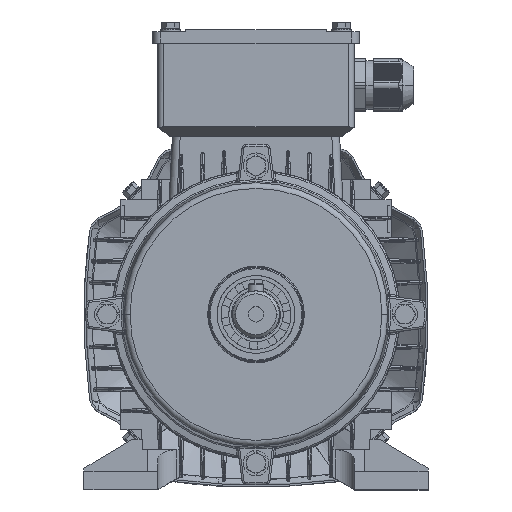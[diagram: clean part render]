
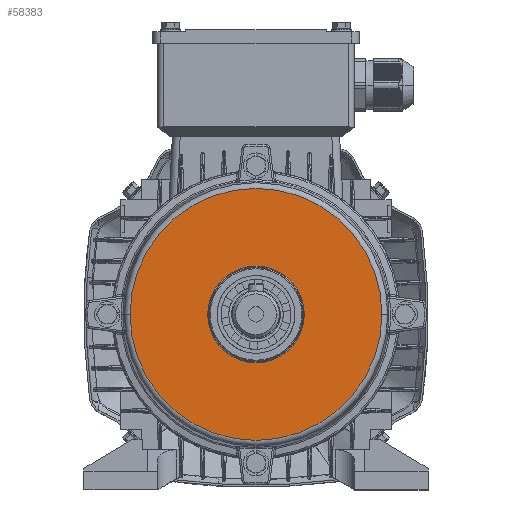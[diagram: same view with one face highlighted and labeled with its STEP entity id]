
A CAD part, top view. The second image highlights one B-rep face of the part: STEP entity #58383.
In plain terms, the highlighted planar face has unit normal (0, 0, 1).
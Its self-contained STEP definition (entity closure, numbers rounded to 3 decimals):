
#3640 = DIRECTION ( 'NONE',  ( 1., 0., 0. ) ) ;
#5575 = CIRCLE ( 'NONE', #59815, 24.856 ) ;
#14032 = CIRCLE ( 'NONE', #89240, 64.796 ) ;
#16422 = VERTEX_POINT ( 'NONE', #102354 ) ;
#23047 = ORIENTED_EDGE ( 'NONE', *, *, #43511, .T. ) ;
#25238 = CARTESIAN_POINT ( 'NONE',  ( -39.396, 15.097, 119.174 ) ) ;
#28728 = CARTESIAN_POINT ( 'NONE',  ( -64.252, 15.097, 119.174 ) ) ;
#28844 = VERTEX_POINT ( 'NONE', #28728 ) ;
#29154 = DIRECTION ( 'NONE',  ( 1., 0., 0. ) ) ;
#33956 = DIRECTION ( 'NONE',  ( -1., 0., 0. ) ) ;
#35304 = FACE_BOUND ( 'NONE', #103683, .T. ) ;
#36992 = DIRECTION ( 'NONE',  ( 0., 0., -1. ) ) ;
#38664 = DIRECTION ( 'NONE',  ( 0., 0., -1. ) ) ;
#43511 = EDGE_CURVE ( 'NONE', #109863, #28844, #5575, .T. ) ;
#51773 = CIRCLE ( 'NONE', #78774, 64.796 ) ;
#51971 = EDGE_LOOP ( 'NONE', ( #107501, #104896 ) ) ;
#54767 = DIRECTION ( 'NONE',  ( 0., 0., 1. ) ) ;
#55351 = DIRECTION ( 'NONE',  ( 0., 0., -1. ) ) ;
#58383 = ADVANCED_FACE ( 'NONE', ( #35304, #101401 ), #80822, .T. ) ;
#58895 = EDGE_CURVE ( 'NONE', #28844, #109863, #66251, .T. ) ;
#59815 = AXIS2_PLACEMENT_3D ( 'NONE', #107104, #55351, #3640 ) ;
#61071 = EDGE_CURVE ( 'NONE', #78529, #16422, #51773, .T. ) ;
#65549 = AXIS2_PLACEMENT_3D ( 'NONE', #88645, #36992, #97336 ) ;
#66251 = CIRCLE ( 'NONE', #65549, 24.856 ) ;
#72190 = CARTESIAN_POINT ( 'NONE',  ( -39.396, 79.892, 119.174 ) ) ;
#72461 = CARTESIAN_POINT ( 'NONE',  ( -104.192, 15.097, 119.174 ) ) ;
#78529 = VERTEX_POINT ( 'NONE', #72461 ) ;
#78774 = AXIS2_PLACEMENT_3D ( 'NONE', #90295, #38664, #98996 ) ;
#80822 = PLANE ( 'NONE',  #104577 ) ;
#81192 = ORIENTED_EDGE ( 'NONE', *, *, #58895, .T. ) ;
#85577 = DIRECTION ( 'NONE',  ( 0., 0., -1. ) ) ;
#86233 = EDGE_CURVE ( 'NONE', #16422, #78529, #14032, .T. ) ;
#88645 = CARTESIAN_POINT ( 'NONE',  ( -39.396, 15.097, 119.174 ) ) ;
#89240 = AXIS2_PLACEMENT_3D ( 'NONE', #25238, #85577, #33956 ) ;
#90295 = CARTESIAN_POINT ( 'NONE',  ( -39.396, 15.097, 119.174 ) ) ;
#97023 = CARTESIAN_POINT ( 'NONE',  ( -14.54, 15.097, 119.174 ) ) ;
#97336 = DIRECTION ( 'NONE',  ( 1., 0., 0. ) ) ;
#98996 = DIRECTION ( 'NONE',  ( -1., 0., 0. ) ) ;
#101401 = FACE_OUTER_BOUND ( 'NONE', #51971, .T. ) ;
#102354 = CARTESIAN_POINT ( 'NONE',  ( 25.4, 15.097, 119.174 ) ) ;
#103683 = EDGE_LOOP ( 'NONE', ( #23047, #81192 ) ) ;
#104577 = AXIS2_PLACEMENT_3D ( 'NONE', #72190, #54767, #29154 ) ;
#104896 = ORIENTED_EDGE ( 'NONE', *, *, #86233, .F. ) ;
#107104 = CARTESIAN_POINT ( 'NONE',  ( -39.396, 15.097, 119.174 ) ) ;
#107501 = ORIENTED_EDGE ( 'NONE', *, *, #61071, .F. ) ;
#109863 = VERTEX_POINT ( 'NONE', #97023 ) ;
